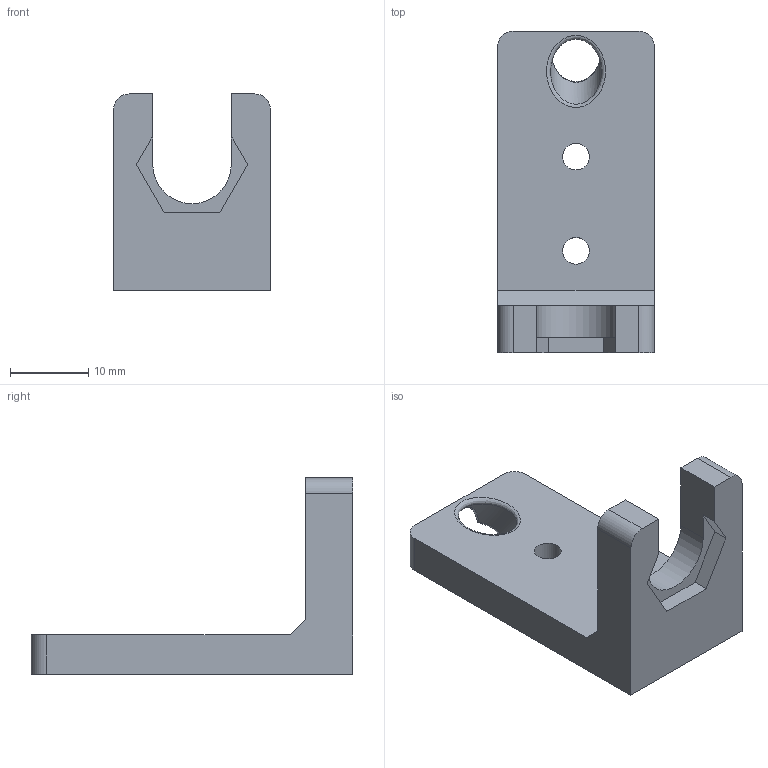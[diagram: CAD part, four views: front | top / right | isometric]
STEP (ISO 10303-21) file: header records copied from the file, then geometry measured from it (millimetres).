
FILE_DESCRIPTION(/* description */ ('','CAx-IF Rec.Pracs.---Representation and Presentation of Product Manufacturing Information (PMI)---4.0---2014-10-13'),/* implementation_level */ '2;1');
FILE_NAME(/* name */ 'blocco_ventosa_profilato.stp',/* time_stamp */ '2026-03-06T07:18:16+01:00',/* author */ ('R5800u'),/* organization */ (''),/* preprocessor_version */ 'ST-DEVELOPER v20',/* originating_system */ 'Autodesk Inventor 2025',/* authorisation */ '');
FILE_SCHEMA (('AP242_MANAGED_MODEL_BASED_3D_ENGINEERING_MIM_LF { 1 0 10303 442 1 1 4 }'));
Length unit declared in the file: millimetre
Products named in the file (1): blocco_ventosa_profilato
Bounding box: 20 x 41 x 25 mm (x, y, z)
Volume: 5387.2 mm3; surface area: 3214 mm2
Topology: 1 solids, 1 shells, 29 faces, 84 edges, 56 vertices
Faces by surface type: plane 18, cylinder 8, bspline 3
Full cylindrical faces by diameter (mm): 3.4 x2, 6.5 x1
Entity records: 1591 total; most frequent: CARTESIAN_POINT 568, DIRECTION 187, ORIENTED_EDGE 168, EDGE_CURVE 84, AXIS2_PLACEMENT_3D 65, LINE 57, VECTOR 57, VERTEX_POINT 56
